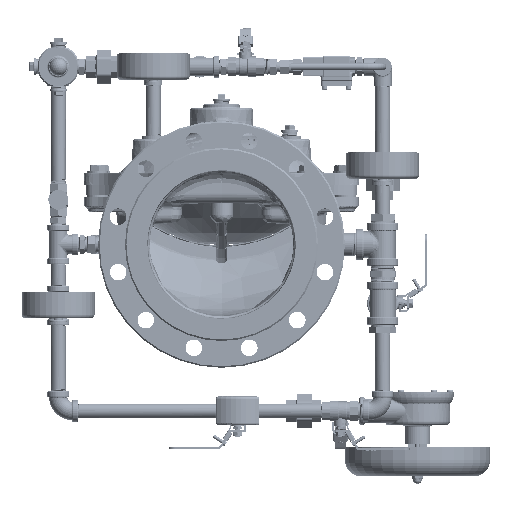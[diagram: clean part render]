
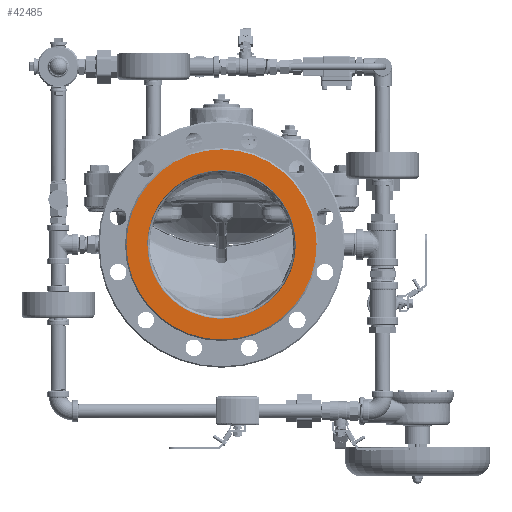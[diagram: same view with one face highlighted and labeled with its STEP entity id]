
A CAD part, front view. The second image highlights one B-rep face of the part: STEP entity #42485.
In plain terms, the highlighted planar face has unit normal (0, -1, 0) as drawn and (1, 0, 0) by its records, which use the part's own axes.
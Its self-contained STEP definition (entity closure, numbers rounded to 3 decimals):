
#10958=CARTESIAN_POINT('',(266.,0.,0.));
#10959=DIRECTION('',(-1.,0.,0.));
#10960=DIRECTION('',(0.,0.,1.));
#10961=AXIS2_PLACEMENT_3D('',#10958,#10959,#10960);
#10963=CARTESIAN_POINT('',(266.,0.,0.));
#10964=DIRECTION('',(-1.,0.,0.));
#10965=DIRECTION('',(0.,0.,-1.));
#10966=AXIS2_PLACEMENT_3D('',#10963,#10964,#10965);
#10968=CARTESIAN_POINT('',(266.,0.,-102.371));
#10969=CARTESIAN_POINT('',(266.,5.402,-102.371));
#10970=CARTESIAN_POINT('',(266.,16.058,-101.529));
#10971=CARTESIAN_POINT('',(266.,31.78,-97.771));
#10972=CARTESIAN_POINT('',(266.,46.682,-91.599));
#10973=CARTESIAN_POINT('',(266.,60.448,-83.163));
#10974=CARTESIAN_POINT('',(266.,72.747,-72.684));
#10975=CARTESIAN_POINT('',(266.,83.234,-60.374));
#10976=CARTESIAN_POINT('',(266.,91.685,-46.567));
#10977=CARTESIAN_POINT('',(266.,97.842,-31.634));
#10978=CARTESIAN_POINT('',(266.,101.564,-15.991));
#10979=CARTESIAN_POINT('',(266.,102.827,-0.002));
#10980=CARTESIAN_POINT('',(266.,101.563,15.986));
#10981=CARTESIAN_POINT('',(266.,97.839,31.63));
#10982=CARTESIAN_POINT('',(266.,91.68,46.568));
#10983=CARTESIAN_POINT('',(266.,83.224,60.381));
#10984=CARTESIAN_POINT('',(266.,72.732,72.697));
#10985=CARTESIAN_POINT('',(266.,60.431,83.182));
#10986=CARTESIAN_POINT('',(266.,46.669,91.621));
#10987=CARTESIAN_POINT('',(266.,31.774,97.797));
#10988=CARTESIAN_POINT('',(266.,16.058,101.561));
#10989=CARTESIAN_POINT('',(266.,5.403,102.405));
#10990=CARTESIAN_POINT('',(266.,0.,102.405));
#11022=CARTESIAN_POINT('',(266.,0.,102.405));
#11023=CARTESIAN_POINT('',(266.,-5.403,102.405));
#11024=CARTESIAN_POINT('',(266.,-16.058,101.561));
#11025=CARTESIAN_POINT('',(266.,-31.774,97.797));
#11026=CARTESIAN_POINT('',(266.,-46.669,91.621));
#11027=CARTESIAN_POINT('',(266.,-60.431,83.182));
#11028=CARTESIAN_POINT('',(266.,-72.732,72.697));
#11029=CARTESIAN_POINT('',(266.,-83.224,60.381));
#11030=CARTESIAN_POINT('',(266.,-91.68,46.568));
#11031=CARTESIAN_POINT('',(266.,-97.839,31.63));
#11032=CARTESIAN_POINT('',(266.,-101.563,15.986));
#11033=CARTESIAN_POINT('',(266.,-102.827,-0.002));
#11034=CARTESIAN_POINT('',(266.,-101.564,-15.991));
#11035=CARTESIAN_POINT('',(266.,-97.842,-31.634));
#11036=CARTESIAN_POINT('',(266.,-91.685,-46.567));
#11037=CARTESIAN_POINT('',(266.,-83.234,-60.374));
#11038=CARTESIAN_POINT('',(266.,-72.747,-72.684));
#11039=CARTESIAN_POINT('',(266.,-60.448,-83.163));
#11040=CARTESIAN_POINT('',(266.,-46.682,-91.599));
#11041=CARTESIAN_POINT('',(266.,-31.78,-97.771));
#11042=CARTESIAN_POINT('',(266.,-16.058,-101.529));
#11043=CARTESIAN_POINT('',(266.,-5.402,-102.371));
#11044=CARTESIAN_POINT('',(266.,0.,-102.371));
#20049=VERTEX_POINT('',#10968);
#20050=VERTEX_POINT('',#10990);
#20095=CARTESIAN_POINT('',(266.,0.,131.));
#20096=CARTESIAN_POINT('',(266.,0.,-131.));
#20097=VERTEX_POINT('',#20095);
#20098=VERTEX_POINT('',#20096);
#42470=CARTESIAN_POINT('',(266.,0.,0.));
#42471=DIRECTION('',(1.,0.,0.));
#42472=DIRECTION('',(0.,0.,1.));
#42473=AXIS2_PLACEMENT_3D('',#42470,#42471,#42472);
#42474=PLANE('',#42473);
#42475=ORIENTED_EDGE('',*,*,#42450,.T.);
#42476=ORIENTED_EDGE('',*,*,#42464,.T.);
#42477=EDGE_LOOP('',(#42475,#42476));
#42478=FACE_OUTER_BOUND('',#42477,.F.);
#42480=ORIENTED_EDGE('',*,*,#42479,.T.);
#42482=ORIENTED_EDGE('',*,*,#42481,.T.);
#42483=EDGE_LOOP('',(#42480,#42482));
#42484=FACE_BOUND('',#42483,.F.);
#42485=ADVANCED_FACE('',(#42478,#42484),#42474,.T.);
#10962=CIRCLE('',#10961,131.);
#10967=CIRCLE('',#10966,131.);
#10991=B_SPLINE_CURVE_WITH_KNOTS('',3,(#10968,#10969,#10970,#10971,#10972,
#10973,#10974,#10975,#10976,#10977,#10978,#10979,#10980,#10981,#10982,#10983,
#10984,#10985,#10986,#10987,#10988,#10989,#10990),.UNSPECIFIED.,.F.,.F.,(4,1,1,
1,1,1,1,1,1,1,1,1,1,1,1,1,1,1,1,1,4),(0.,0.05,0.1,0.15,0.2,0.25,
0.3,0.35,0.4,0.45,0.5,0.55,0.6,0.65,0.7,0.75,0.8,0.85,
0.9,0.95,1.),.UNSPECIFIED.);
#11045=B_SPLINE_CURVE_WITH_KNOTS('',3,(#11022,#11023,#11024,#11025,#11026,
#11027,#11028,#11029,#11030,#11031,#11032,#11033,#11034,#11035,#11036,#11037,
#11038,#11039,#11040,#11041,#11042,#11043,#11044),.UNSPECIFIED.,.F.,.F.,(4,1,1,
1,1,1,1,1,1,1,1,1,1,1,1,1,1,1,1,1,4),(0.,0.05,0.1,0.15,0.2,0.25,
0.3,0.35,0.4,0.45,0.5,0.55,0.6,0.65,0.7,0.75,0.8,0.85,
0.9,0.95,1.),.UNSPECIFIED.);
#42450=EDGE_CURVE('',#20097,#20098,#10962,.T.);
#42464=EDGE_CURVE('',#20098,#20097,#10967,.T.);
#42479=EDGE_CURVE('',#20049,#20050,#10991,.T.);
#42481=EDGE_CURVE('',#20050,#20049,#11045,.T.);
